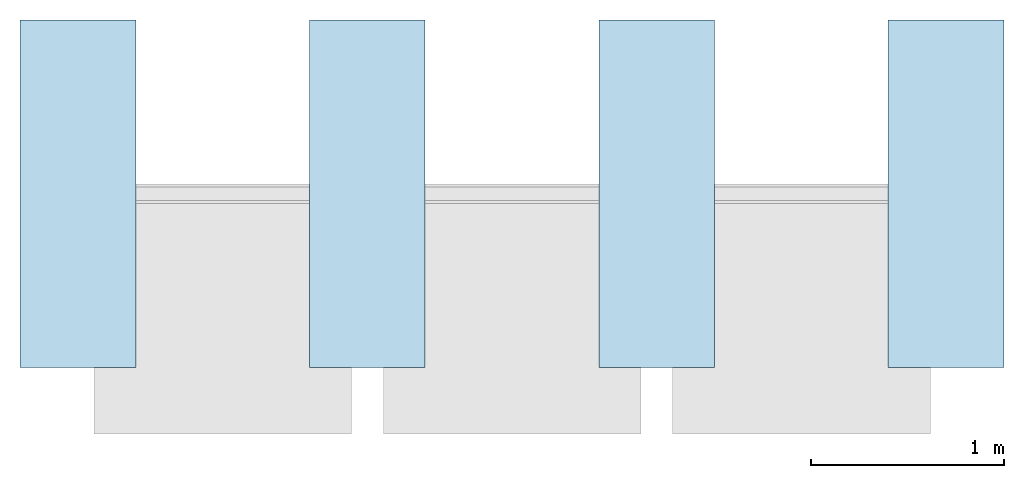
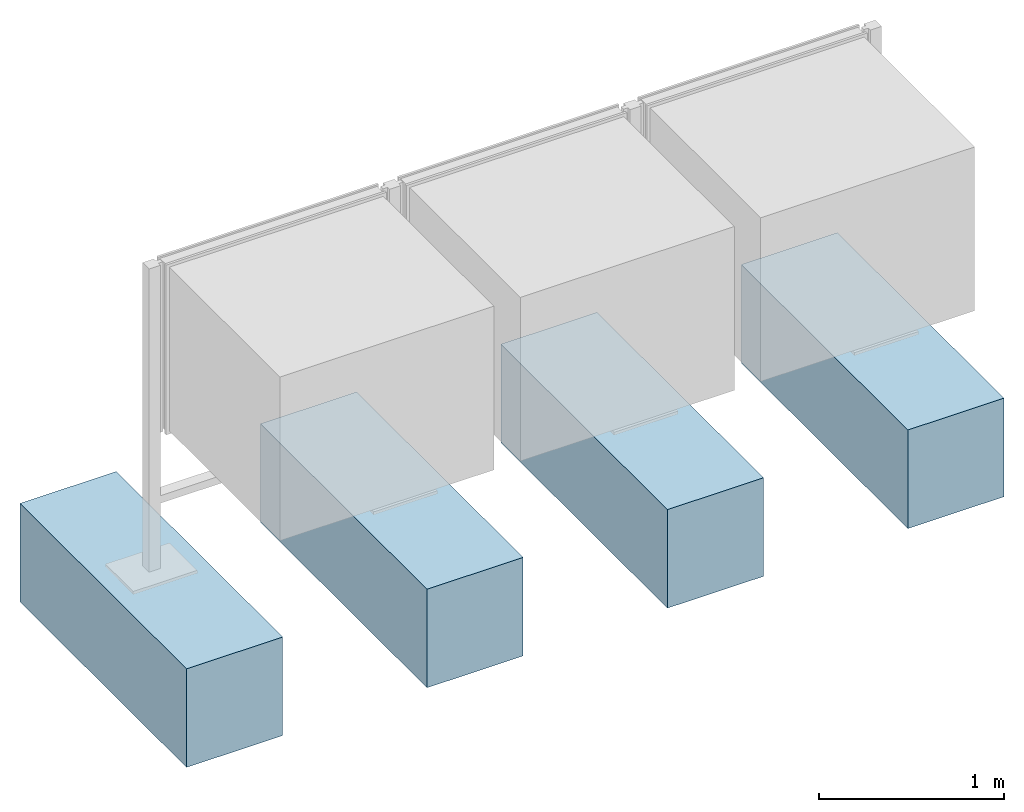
# One storey, incomplete: 4 slabs.
"""IFC4 building model written with IfcOpenShell, lengths in metres."""

from ifc_helpers import new_model, entity, si_unit, converted_unit, direction, frame, frame_2d, origin, origin_2d_with_axis, place, context, subcontext, project, spatial, rectangle, extrude, material, type_object, element, save


model = new_model("IFC4")

# Units and contexts
model_context = context("Model", 3, precision=1e-05, world=origin(), true_north=direction((6.123031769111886e-17, 1.0)))
body_context = subcontext(model_context, "Body", "Model", "MODEL_VIEW")
ifc_project = project(units=[si_unit("LENGTHUNIT", "METRE"), converted_unit("PLANEANGLEUNIT", "DEGREE", entity("IfcPlaneAngleMeasure", 0.017453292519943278), si_unit("PLANEANGLEUNIT", "RADIAN"), dimensions=[0, 0, 0, 0, 0, 0, 0]), si_unit("AREAUNIT", "SQUARE_METRE")], contexts=[model_context])

# Site, building, storey
site_placement = place(None, origin())
site = spatial("IfcSite", under=ifc_project, at=site_placement, Name="Default", CompositionType="ELEMENT")
building_placement = place(site_placement, origin())
building = spatial("IfcBuilding", under=site, at=building_placement, CompositionType="ELEMENT")
storey_placement = place(building_placement, origin())
storey = spatial("IfcBuildingStorey", under=building, at=storey_placement, Name="DB_Bezugshoehe_max_Bahnsteigkante", CompositionType="ELEMENT", Elevation=0.0)

# Slabs
ifc_material = material(Name="DB_Ortbeton", Category="DB_Beton")
slab_type = type_object("IfcSlabType", Name="DB_Vitrine_Fundament:DB_Vitrine_Fundament", PredefinedType="BASESLAB", material=ifc_material)
slab_1_placement = place(storey_placement, origin())
element("IfcSlab", 1, at=slab_1_placement, inside=storey, type_object=slab_type, Name="DB_Vitrine_Fundament:DB_Vitrine_Fundament", ObjectType="DB_Vitrine_Fundament:DB_Vitrine_Fundament", PredefinedType="BASESLAB", context=body_context, shape_type="SweptSolid", body=[
    extrude(rectangle(XDim=1.8, YDim=0.5999999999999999, at=origin_2d_with_axis()), frame((-0.0006257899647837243, 0.0, 0.04999999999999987), z_axis=(0.0, 0.0, 1.0), x_axis=(0.0, 1.0, 0.0)), (0.0, 0.0, 1.0), 0.5999999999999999),
    extrude(rectangle(XDim=0.5999999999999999, YDim=1.7999999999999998, at=origin_2d_with_axis()), frame((-0.0006257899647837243, 0.0, 0.0), z_axis=(0.0, 0.0, 1.0), x_axis=(-1.0, 0.0, 0.0)), (0.0, 0.0, 1.0), 0.04999999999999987),
])
slab_2_placement = place(storey_placement, origin())
element("IfcSlab", 2, at=slab_2_placement, inside=storey, type_object=slab_type, Name="DB_Vitrine_Fundament:DB_Vitrine_Fundament", ObjectType="DB_Vitrine_Fundament:DB_Vitrine_Fundament", PredefinedType="BASESLAB", context=body_context, shape_type="SweptSolid", body=[
    extrude(rectangle(XDim=1.8, YDim=0.5999999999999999, at=frame_2d((0.0, -8.326672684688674e-17), x_axis=(1.0, 0.0))), frame((1.4993742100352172, 0.0, 0.04999999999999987), z_axis=(0.0, 0.0, 1.0), x_axis=(0.0, 1.0, 0.0)), (0.0, 0.0, 1.0), 0.5999999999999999),
    extrude(rectangle(XDim=0.5999999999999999, YDim=1.7999999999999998, at=frame_2d((-1.3877787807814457e-16, 0.0), x_axis=(1.0, 0.0))), frame((1.4993742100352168, 0.0, 0.0), z_axis=(0.0, 0.0, 1.0), x_axis=(-1.0, 0.0, 0.0)), (0.0, 0.0, 1.0), 0.04999999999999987),
])
slab_3_placement = place(storey_placement, origin())
element("IfcSlab", 3, at=slab_3_placement, inside=storey, type_object=slab_type, Name="DB_Vitrine_Fundament:DB_Vitrine_Fundament", ObjectType="DB_Vitrine_Fundament:DB_Vitrine_Fundament", PredefinedType="BASESLAB", context=body_context, shape_type="SweptSolid", body=[
    extrude(rectangle(XDim=1.8, YDim=0.6000000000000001, at=origin_2d_with_axis()), frame((2.9993742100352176, 0.0, 0.04999999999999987), z_axis=(0.0, 0.0, 1.0), x_axis=(0.0, 1.0, 0.0)), (0.0, 0.0, 1.0), 0.5999999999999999),
    extrude(rectangle(XDim=0.6000000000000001, YDim=1.7999999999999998, at=origin_2d_with_axis()), frame((2.9993742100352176, 0.0, 0.0), z_axis=(0.0, 0.0, 1.0), x_axis=(-1.0, 0.0, 0.0)), (0.0, 0.0, 1.0), 0.04999999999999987),
])
slab_4_placement = place(storey_placement, origin())
element("IfcSlab", 4, at=slab_4_placement, inside=storey, type_object=slab_type, Name="DB_Vitrine_Fundament:DB_Vitrine_Fundament", ObjectType="DB_Vitrine_Fundament:DB_Vitrine_Fundament", PredefinedType="BASESLAB", context=body_context, shape_type="SweptSolid", body=[
    extrude(rectangle(XDim=1.8, YDim=0.6000000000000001, at=origin_2d_with_axis()), frame((4.49937421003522, 0.0, 0.04999999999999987), z_axis=(0.0, 0.0, 1.0), x_axis=(0.0, 1.0, 0.0)), (0.0, 0.0, 1.0), 0.5999999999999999),
    extrude(rectangle(XDim=0.6000000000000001, YDim=1.7999999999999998, at=origin_2d_with_axis()), frame((4.49937421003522, 0.0, 0.0), z_axis=(0.0, 0.0, 1.0), x_axis=(-1.0, 0.0, 0.0)), (0.0, 0.0, 1.0), 0.04999999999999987),
])

save(model, "model.ifc")
